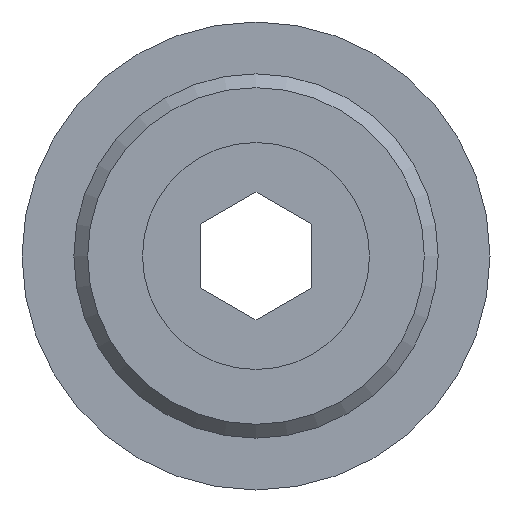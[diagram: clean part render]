
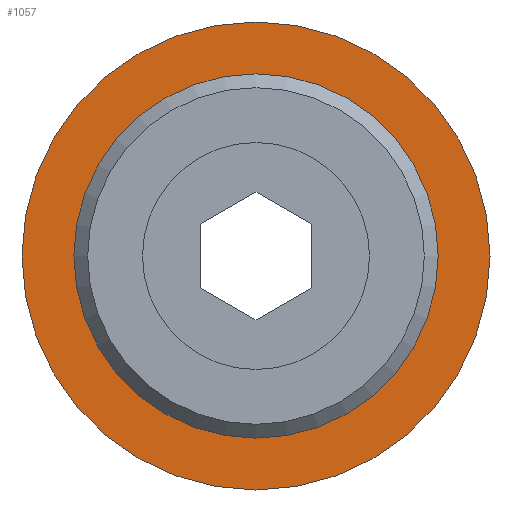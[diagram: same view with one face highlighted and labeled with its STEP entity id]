
A CAD part, front view. The second image highlights one B-rep face of the part: STEP entity #1057.
In plain terms, the highlighted planar face has unit normal (0, -1, 0).
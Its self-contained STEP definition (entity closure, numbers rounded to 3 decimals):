
#377=CARTESIAN_POINT('',(6.579,-15.0,0.0));
#378=VERTEX_POINT('',#377);
#379=CARTESIAN_POINT('',(0.0,-15.0,0.0));
#380=DIRECTION('',(0.0,-1.0,0.0));
#381=DIRECTION('',(1.0,0.0,0.0));
#382=AXIS2_PLACEMENT_3D('',#379,#380,#381);
#383=CIRCLE('',#382,6.579);
#384=EDGE_CURVE('',#378,#378,#383,.T.);
#1031=CARTESIAN_POINT('',(8.45,-15.0,0.0));
#1032=VERTEX_POINT('',#1031);
#1033=CARTESIAN_POINT('',(0.0,-15.0,0.0));
#1034=DIRECTION('',(0.0,-1.0,0.0));
#1035=DIRECTION('',(1.0,0.0,0.0));
#1036=AXIS2_PLACEMENT_3D('',#1033,#1034,#1035);
#1037=CIRCLE('',#1036,8.45);
#1038=EDGE_CURVE('',#1032,#1032,#1037,.T.);
#1046=CARTESIAN_POINT('',(7.514,-15.0,0.0));
#1047=DIRECTION('',(0.0,-1.0,0.0));
#1048=DIRECTION('',(0.0,0.0,-1.0));
#1049=AXIS2_PLACEMENT_3D('',#1046,#1047,#1048);
#1050=PLANE('',#1049);
#1051=ORIENTED_EDGE('',*,*,#1038,.T.);
#1052=EDGE_LOOP('',(#1051));
#1053=FACE_OUTER_BOUND('',#1052,.T.);
#1054=ORIENTED_EDGE('',*,*,#384,.F.);
#1055=EDGE_LOOP('',(#1054));
#1056=FACE_BOUND('',#1055,.T.);
#1057=ADVANCED_FACE('',(#1053,#1056),#1050,.T.);
